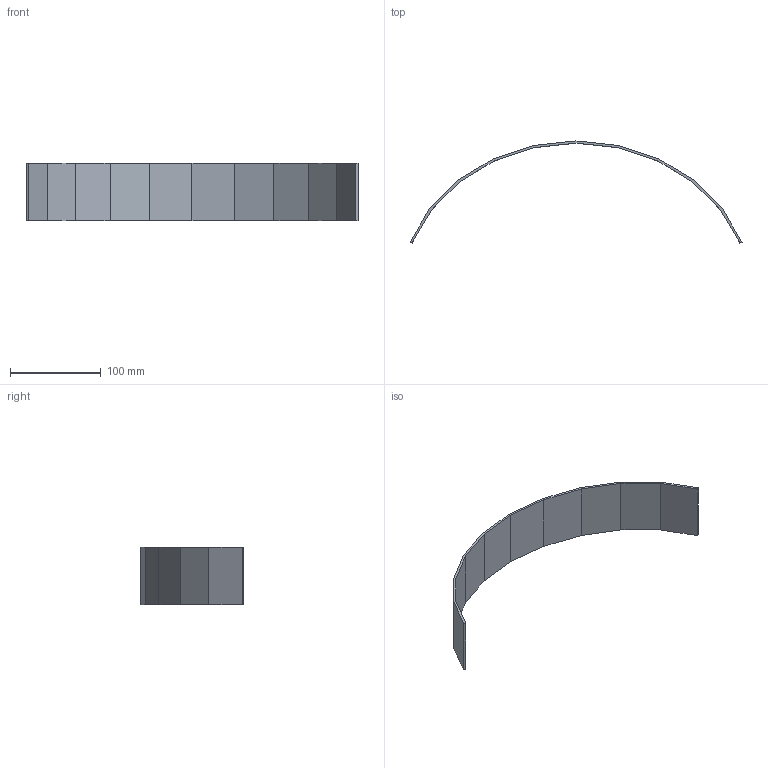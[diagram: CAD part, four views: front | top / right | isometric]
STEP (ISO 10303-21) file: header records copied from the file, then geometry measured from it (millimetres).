
FILE_DESCRIPTION(('Open CASCADE Model'),'2;1');
FILE_NAME('Open CASCADE Shape Model','2026-09-19T23:46:39',('Author'),( 'Open CASCADE'),'Open CASCADE STEP processor 7.9','Open CASCADE 7.9' ,'Unknown');
FILE_SCHEMA(('AUTOMOTIVE_DESIGN { 1 0 10303 214 1 1 1 1 }'));
Length unit declared in the file: millimetre
Products named in the file (1): Open CASCADE STEP translator 7.9 24
Bounding box: 366.48 x 112.71 x 63 mm (x, y, z)
Volume: 70326.6 mm3; surface area: 59311.2 mm2
Topology: 1 solids, 1 shells, 24 faces, 66 edges, 44 vertices
Faces by surface type: plane 24
Entity records: 1552 total; most frequent: CARTESIAN_POINT 333, DIRECTION 182, ORIENTED_EDGE 132, LINE 132, VECTOR 132, PCURVE 132, DEFINITIONAL_REPRESENTATION 132, EDGE_CURVE 66
